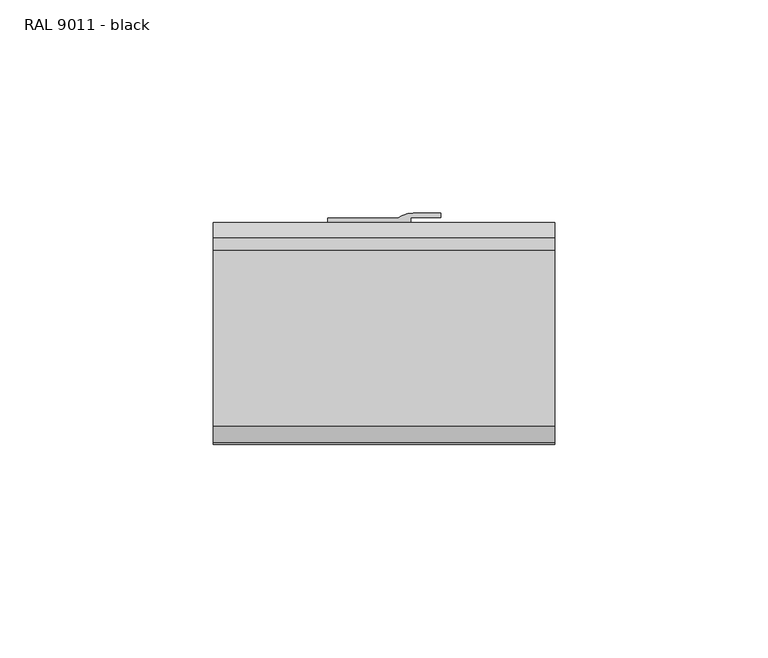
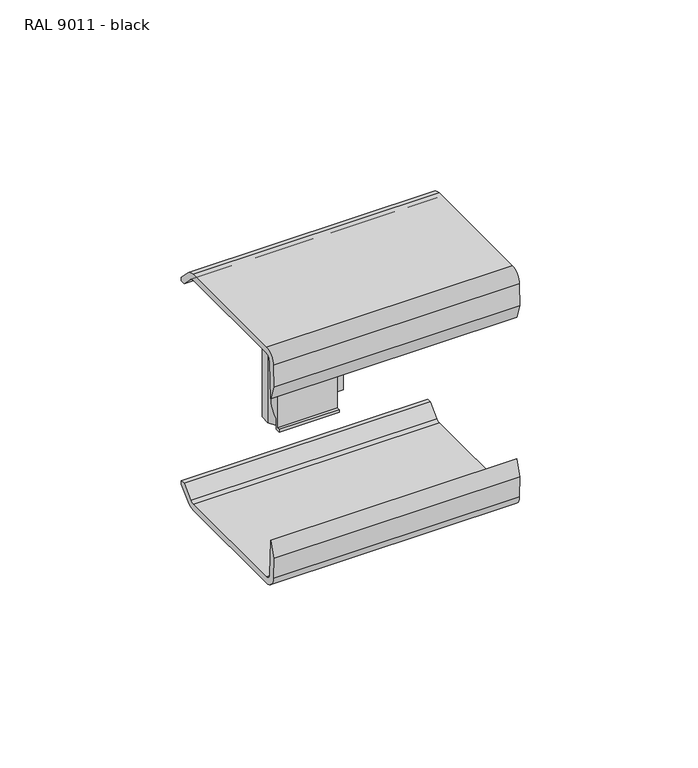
"""IFC4 building model written with IfcOpenShell, lengths in millimetres: cable carrier fitting geometry, Electrical_Installations_Hager_GBA-Coupling-Piece : RAL 9011 - black."""

from ifc_helpers import new_model, si_unit, point, frame, frame_2d, origin, place, context, project, spatial, polyline, circle_curve, trimmed, segment, composite_curve, outline, extrude, source, transform, mapped, element, save


def ral_9011_black_1f146644(model_context):
    return source(origin(), model_context, "Body", "SweptSolid", [
        extrude(outline(composite_curve([segment(polyline([(19.5299546, 21.178125), (19.5299546, 21.978125), (21.5299546, 21.978125), (21.5299546, 18.0543796)]), True, "CONTINUOUS"), segment(trimmed(circle_curve(frame_2d((18.0575569, 12.9844117)), 6.1450891), [point((21.5299546, 18.0543796))], [point((24.1862046, 13.4336306))], False, "CARTESIAN"), True, "CONTINUOUS"), segment(polyline([(24.1862046, 13.4336306), (24.1862046, -13.6515165)]), True, "CONTINUOUS"), segment(trimmed(circle_curve(frame_2d((19.0558691, -13.6515165)), 5.1303355), [point((24.1862046, -13.6515165))], [point((21.5299546, -18.1458733))], False, "CARTESIAN"), True, "CONTINUOUS"), segment(polyline([(21.5299546, -18.1458733), (21.5299546, -21.8625), (19.763323, -21.8625), (19.763323, -20.857314), (20.7299546, -20.857314), (20.7299546, 21.178125), (19.5299546, 21.178125)]), True, "CONTINUOUS")], self_intersect=False)), frame((-0.7125, 0.0, 0.0), z_axis=(1.0, 0.0, 0.0), x_axis=(0.0, 1.0, 0.0)), (0.0, 0.0, 1.0), 19.5),
        extrude(outline(composite_curve([segment(polyline([(-0.7125, 29.3862046), (15.6888516, 29.3862046)]), True, "CONTINUOUS"), segment(trimmed(circle_curve(frame_2d((19.3875, 24.2862046)), 6.3), [point((15.6888516, 29.3862046))], [point((19.3875, 30.5862046))], False, "CARTESIAN"), True, "CONTINUOUS"), segment(polyline([(19.3875, 30.5862046), (25.7875, 30.5862046), (25.7875, 29.5862046), (18.7875, 29.5862046), (18.7875, 26.0862046), (17.5173294, 23.8862046), (16.234474, 23.8862046), (16.234474, 26.0862046), (1.791584, 26.0862046), (1.791584, 23.8862046), (0.5576706, 23.8862046), (-0.7125, 26.0862046), (-0.7125, 29.3862046)]), True, "CONTINUOUS")], self_intersect=False)), frame((0.0, 0.0, -22.4), z_axis=(0.0, 0.0, 1.0), x_axis=(1.0, 0.0, 0.0)), (0.0, 0.0, 1.0), 45.0),
        extrude(outline(composite_curve([segment(polyline([(26.903365, -34.3), (28.403365, -34.3), (28.403365, -35.6284271), (24.703365, -39.3284271)]), True, "CONTINUOUS"), segment(trimmed(circle_curve(frame_2d((21.8749378, -36.5)), 4.0), [point((24.703365, -39.3284271))], [point((21.8749378, -40.5))], False, "CARTESIAN"), True, "CONTINUOUS"), segment(polyline([(21.8749378, -40.5), (-19.4152919, -40.5)]), True, "CONTINUOUS"), segment(trimmed(circle_curve(frame_2d((-19.4152919, -36.6150555)), 3.8849445), [point((-19.4152919, -40.5))], [point((-23.3002364, -36.6150555))], False, "CARTESIAN"), True, "CONTINUOUS"), segment(polyline([(-23.3002364, -36.6150555), (-23.6789386, -29.3889857), (-21.9407516, -24.3409241), (-21.3036733, -36.4971035)]), True, "CONTINUOUS"), segment(trimmed(circle_curve(frame_2d((-19.3007768, -36.4971035)), 2.0028965), [point((-21.3036733, -36.4971035))], [point((-19.3007768, -38.5))], True, "CARTESIAN"), True, "CONTINUOUS"), segment(polyline([(-19.3007768, -38.5), (21.8749378, -38.5)]), True, "CONTINUOUS"), segment(trimmed(circle_curve(frame_2d((21.8749378, -36.5)), 2.0), [point((21.8749378, -38.5))], [point((23.2891514, -37.9142136))], True, "CARTESIAN"), True, "CONTINUOUS"), segment(polyline([(23.2891514, -37.9142136), (26.903365, -34.3)]), True, "CONTINUOUS")], self_intersect=False)), frame((-27.5, 0.0, 0.0), z_axis=(1.0, 0.0, 0.0), x_axis=(0.0, 1.0, 0.0)), (0.0, 0.0, 1.0), 80.0),
        extrude(outline(composite_curve([segment(polyline([(26.903365, 34.3), (23.2891514, 37.9142136)]), True, "CONTINUOUS"), segment(trimmed(circle_curve(frame_2d((21.8749378, 36.5)), 2.0), [point((23.2891514, 37.9142136))], [point((21.8749378, 38.5))], True, "CARTESIAN"), True, "CONTINUOUS"), segment(polyline([(21.8749378, 38.5), (-19.3007768, 38.5)]), True, "CONTINUOUS"), segment(trimmed(circle_curve(frame_2d((-19.3007768, 36.4971035)), 2.0028965), [point((-19.3007768, 38.5))], [point((-21.3036733, 36.4971035))], True, "CARTESIAN"), True, "CONTINUOUS"), segment(polyline([(-21.3036733, 36.4971035), (-21.9407516, 24.3409241), (-23.6789386, 29.3889857), (-23.3002364, 36.6150555)]), True, "CONTINUOUS"), segment(trimmed(circle_curve(frame_2d((-19.4152919, 36.6150555)), 3.8849445), [point((-23.3002364, 36.6150555))], [point((-19.4152919, 40.5))], False, "CARTESIAN"), True, "CONTINUOUS"), segment(polyline([(-19.4152919, 40.5), (21.8749378, 40.5)]), True, "CONTINUOUS"), segment(trimmed(circle_curve(frame_2d((21.8749378, 36.5)), 4.0), [point((21.8749378, 40.5))], [point((24.703365, 39.3284271))], False, "CARTESIAN"), True, "CONTINUOUS"), segment(polyline([(24.703365, 39.3284271), (28.403365, 35.6284271), (28.403365, 34.3), (26.903365, 34.3)]), True, "CONTINUOUS")], self_intersect=False)), frame((-27.5, 0.0, 0.0), z_axis=(1.0, 0.0, 0.0), x_axis=(0.0, 1.0, 0.0)), (0.0, 0.0, 1.0), 80.0),
    ])


if __name__ == "__main__":
    model = new_model("IFC4")
    model_context = context("Model", 3, world=origin())
    ifc_project = project(units=[si_unit("LENGTHUNIT", "METRE", prefix="MILLI")], contexts=[model_context])
    site = spatial("IfcSite", under=ifc_project)
    building = spatial("IfcBuilding", under=site)
    placement = place(None, origin())
    ral_9011_black_shape = ral_9011_black_1f146644(model_context)
    element("IfcCableCarrierFitting", 1, ObjectType="Electrical_Installations_Hager_GBA-Coupling-Piece : RAL 9011 - black", at=placement, inside=building, context=model_context, shape_type="MappedRepresentation", body=[
        mapped(ral_9011_black_shape, transform((0.0, 0.0, 0.0), x_axis=(1.0, 0.0, 0.0), y_axis=(0.0, 1.0, 0.0), z_axis=(0.0, 0.0, 1.0))),
    ])
    save(model, "model.ifc")
